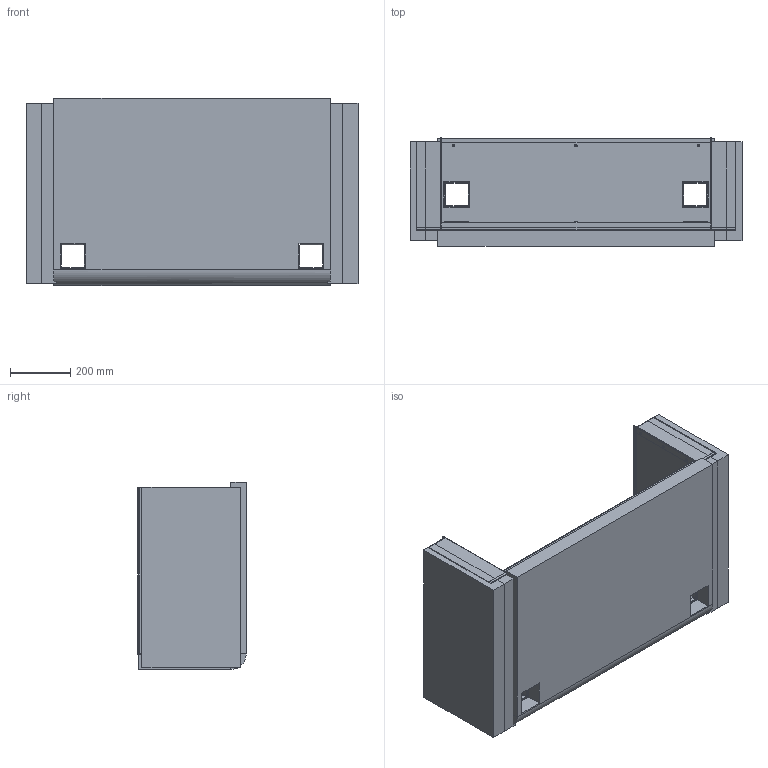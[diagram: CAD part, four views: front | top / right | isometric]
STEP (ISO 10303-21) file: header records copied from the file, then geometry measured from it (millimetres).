
FILE_DESCRIPTION(('CATIA V5 STEP Exchange','CAx-IF Rec.Pracs.--- Composite Materials ---3.4---2017-06-13'),'2;1');
FILE_NAME('C:\Users\MMAK\Documents\SmarTeam\WEBSITE CAD\LIJ\LIJ600.stp','2026-08-25T18:44:25+00:00',('none'),('none'),'CATIA Unofficial Packaging Version SP2','CATIA V5 STEP AP203 v2','none');
FILE_SCHEMA(('CONFIG_CONTROL_DESIGN'));
Products named in the file (1): 81122 2
Assembly tree (81 placements, depth 2):
  81122 2
    #63
    #2630
    #3093
    #3556
    #4019
    #4482
    #4945
    #5408
    #5590
    #6053
    #6516
    #6979
    #7442
    #7905
    #8368
    #8831
    #9294
    #11736
    #12199
    #12662
    #13125
    #13588
    #14051
    #14514
    #14977
    #15440
    #15903
    #16366
    #16829
    #17292
    #17755
    #18218
    #20654
    #21117
    #21580
    #21762
    #22225
    #22688
    #23151
    #23614
    #24077
    #24540
    #25003
    #25466
    #25929
    #26392
    #26855
    #27318
    #30554
    #31017
    #31480
    #34047
    #34510
    #34973
    #35155
    #35618
    #36081
    #36544
    #37007
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Bounding box: 1102.2 x 359.94 x 621.01 mm (x, y, z)
Volume: 83821961 mm3; surface area: 9306209 mm2
Topology: 81 solids, 81 shells, 2100 faces, 4542 edges, 2736 vertices
Faces by surface type: cylinder 932, plane 888, torus 132, revolution 132, bspline 16
Entity records: 61582 total; most frequent: CARTESIAN_POINT 17259, ORIENTED_EDGE 9084, DIRECTION 7367, EDGE_CURVE 4542, AXIS2_PLACEMENT_3D 3558, VERTEX_POINT 2736, EDGE_LOOP 2496, VECTOR 2122
